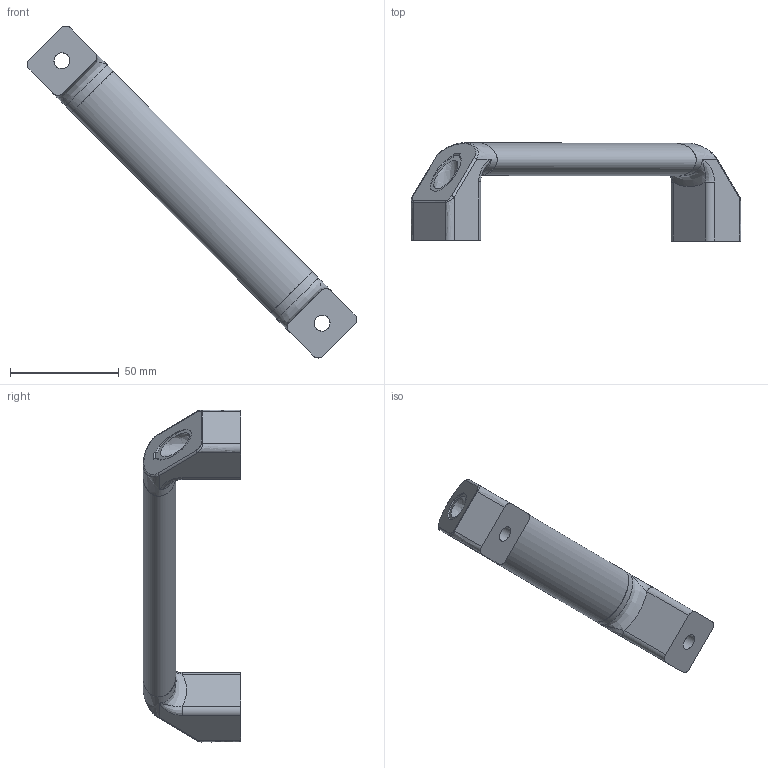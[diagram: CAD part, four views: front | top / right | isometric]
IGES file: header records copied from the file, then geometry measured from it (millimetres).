
Global section: file name: DR_A-COVER170; native system: Autodesk Inventor 2015; preprocessor: unknown; author: CH.J; date: 20170708.092714; units: millimetre
Bounding box: 151.73 x 45.01 x 152.72 mm (x, y, z)
Volume: 55391.6 mm3; surface area: 29181.2 mm2
Topology: 3 solids, 3 shells, 66 faces, 148 edges, 90 vertices
Faces by surface type: bspline 66
